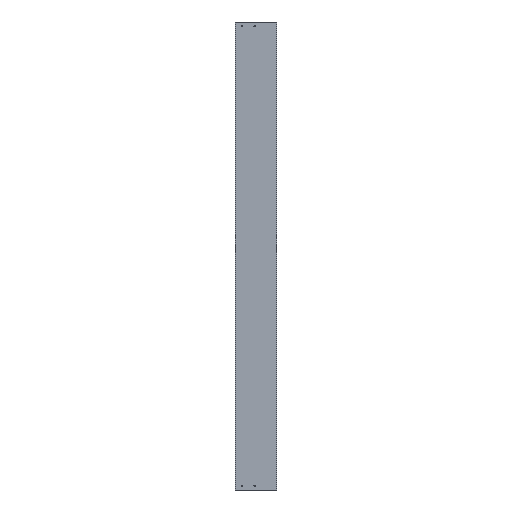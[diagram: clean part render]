
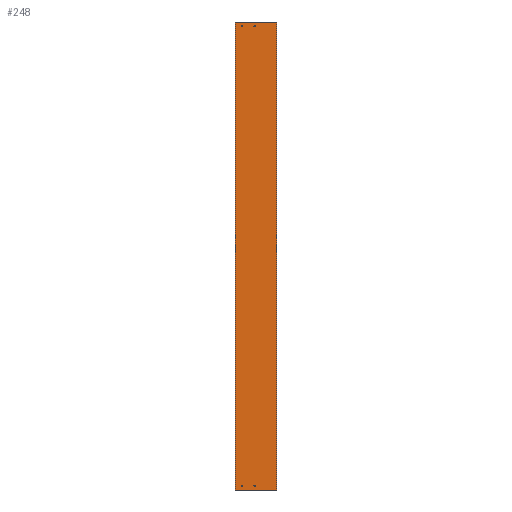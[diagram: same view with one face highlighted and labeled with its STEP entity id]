
A CAD part, left-side view. The second image highlights one B-rep face of the part: STEP entity #248.
In plain terms, the highlighted planar face has unit normal (-1, 0, 0).
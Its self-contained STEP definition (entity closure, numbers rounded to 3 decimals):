
#4 = CARTESIAN_POINT ( 'NONE',  ( 0., 87.5, -1149.5 ) ) ;
#11 = DIRECTION ( 'NONE',  ( 0., -1., 0. ) ) ;
#12 = AXIS2_PLACEMENT_3D ( 'NONE', #119, #367, #95 ) ;
#14 = EDGE_CURVE ( 'NONE', #417, #498, #448, .T. ) ;
#29 = EDGE_CURVE ( 'NONE', #40, #411, #405, .T. ) ;
#30 = DIRECTION ( 'NONE',  ( -1., 0., 0. ) ) ;
#33 = DIRECTION ( 'NONE',  ( 0., -1., 0. ) ) ;
#38 = EDGE_CURVE ( 'NONE', #379, #414, #188, .T. ) ;
#40 = VERTEX_POINT ( 'NONE', #339 ) ;
#42 = EDGE_LOOP ( 'NONE', ( #90, #433 ) ) ;
#47 = CARTESIAN_POINT ( 'NONE',  ( 0., 57., -10.5 ) ) ;
#48 = DIRECTION ( 'NONE',  ( -1., 0., 0. ) ) ;
#50 = DIRECTION ( 'NONE',  ( -1., 0., 0. ) ) ;
#61 = DIRECTION ( 'NONE',  ( 0., -1., 0. ) ) ;
#74 = CARTESIAN_POINT ( 'NONE',  ( 0., 87.5, -1149.5 ) ) ;
#75 = ORIENTED_EDGE ( 'NONE', *, *, #226, .T. ) ;
#84 = DIRECTION ( 'NONE',  ( 0., -1., 0. ) ) ;
#86 = DIRECTION ( 'NONE',  ( -1., 0., 0. ) ) ;
#87 = VERTEX_POINT ( 'NONE', #277 ) ;
#90 = ORIENTED_EDGE ( 'NONE', *, *, #29, .F. ) ;
#95 = DIRECTION ( 'NONE',  ( 0., -1., 0. ) ) ;
#99 = DIRECTION ( 'NONE',  ( 0., -1., 0. ) ) ;
#100 = EDGE_CURVE ( 'NONE', #414, #379, #408, .T. ) ;
#103 = DIRECTION ( 'NONE',  ( -1., 0., 0. ) ) ;
#110 = EDGE_LOOP ( 'NONE', ( #482, #195 ) ) ;
#114 = AXIS2_PLACEMENT_3D ( 'NONE', #165, #128, #61 ) ;
#115 = DIRECTION ( 'NONE',  ( 0., -1., 0. ) ) ;
#119 = CARTESIAN_POINT ( 'NONE',  ( 0., 87.5, -10.5 ) ) ;
#128 = DIRECTION ( 'NONE',  ( -1., 0., 0. ) ) ;
#131 = EDGE_CURVE ( 'NONE', #293, #460, #385, .T. ) ;
#133 = DIRECTION ( 'NONE',  ( 0., -1., 0. ) ) ;
#136 = AXIS2_PLACEMENT_3D ( 'NONE', #232, #30, #115 ) ;
#137 = EDGE_CURVE ( 'NONE', #240, #432, #262, .T. ) ;
#138 = AXIS2_PLACEMENT_3D ( 'NONE', #233, #50, #133 ) ;
#146 = DIRECTION ( 'NONE',  ( 0., -1., 0. ) ) ;
#150 = EDGE_LOOP ( 'NONE', ( #459, #474 ) ) ;
#151 = DIRECTION ( 'NONE',  ( -1., 0., 0. ) ) ;
#156 = EDGE_CURVE ( 'NONE', #410, #293, #375, .T. ) ;
#157 = CARTESIAN_POINT ( 'NONE',  ( 0., 55.5, -10.5 ) ) ;
#163 = FACE_BOUND ( 'NONE', #254, .T. ) ;
#164 = AXIS2_PLACEMENT_3D ( 'NONE', #157, #48, #33 ) ;
#165 = CARTESIAN_POINT ( 'NONE',  ( 0., 103.5, -1160. ) ) ;
#171 = CARTESIAN_POINT ( 'NONE',  ( 0., 104., 0. ) ) ;
#173 = DIRECTION ( 'NONE',  ( -1., 0., 0. ) ) ;
#174 = DIRECTION ( 'NONE',  ( 0., -1., 0. ) ) ;
#188 = CIRCLE ( 'NONE', #204, 1.5 ) ;
#190 = AXIS2_PLACEMENT_3D ( 'NONE', #199, #86, #84 ) ;
#195 = ORIENTED_EDGE ( 'NONE', *, *, #14, .F. ) ;
#199 = CARTESIAN_POINT ( 'NONE',  ( 0., 55.5, -1149.5 ) ) ;
#204 = AXIS2_PLACEMENT_3D ( 'NONE', #442, #151, #146 ) ;
#214 = CARTESIAN_POINT ( 'NONE',  ( 0., 54., -10.5 ) ) ;
#225 = CARTESIAN_POINT ( 'NONE',  ( 0., 103.5, 0. ) ) ;
#226 = EDGE_CURVE ( 'NONE', #410, #87, #360, .T. ) ;
#230 = VECTOR ( 'NONE', #492, 1000. ) ;
#232 = CARTESIAN_POINT ( 'NONE',  ( 0., 55.5, -1149.5 ) ) ;
#233 = CARTESIAN_POINT ( 'NONE',  ( 0., 55.5, -10.5 ) ) ;
#240 = VERTEX_POINT ( 'NONE', #47 ) ;
#241 = CARTESIAN_POINT ( 'NONE',  ( 0., 104., -1160. ) ) ;
#248 = ADVANCED_FACE ( 'NONE', ( #355, #441, #356, #163, #350 ), #511, .T. ) ;
#254 = EDGE_LOOP ( 'NONE', ( #508, #499 ) ) ;
#259 = CARTESIAN_POINT ( 'NONE',  ( 0., 89., -10.5 ) ) ;
#262 = CIRCLE ( 'NONE', #138, 1.5 ) ;
#269 = CARTESIAN_POINT ( 'NONE',  ( 0., 57., -1149.5 ) ) ;
#277 = CARTESIAN_POINT ( 'NONE',  ( 0., 0., -1160. ) ) ;
#286 = AXIS2_PLACEMENT_3D ( 'NONE', #74, #103, #99 ) ;
#288 = CIRCLE ( 'NONE', #190, 1.5 ) ;
#291 = LINE ( 'NONE', #513, #230 ) ;
#293 = VERTEX_POINT ( 'NONE', #354 ) ;
#294 = DIRECTION ( 'NONE',  ( 0., -1., 0. ) ) ;
#297 = CIRCLE ( 'NONE', #164, 1.5 ) ;
#301 = CARTESIAN_POINT ( 'NONE',  ( 0., 103.5, -1160. ) ) ;
#310 = CIRCLE ( 'NONE', #286, 1.5 ) ;
#322 = CARTESIAN_POINT ( 'NONE',  ( 0., 86., -1149.5 ) ) ;
#339 = CARTESIAN_POINT ( 'NONE',  ( 0., 54., -1149.5 ) ) ;
#340 = AXIS2_PLACEMENT_3D ( 'NONE', #4, #173, #11 ) ;
#350 = FACE_OUTER_BOUND ( 'NONE', #390, .T. ) ;
#354 = CARTESIAN_POINT ( 'NONE',  ( 0., 104., 0. ) ) ;
#355 = FACE_BOUND ( 'NONE', #150, .T. ) ;
#356 = FACE_BOUND ( 'NONE', #110, .T. ) ;
#358 = EDGE_CURVE ( 'NONE', #498, #417, #310, .T. ) ;
#359 = VECTOR ( 'NONE', #294, 1000. ) ;
#360 = LINE ( 'NONE', #301, #359 ) ;
#367 = DIRECTION ( 'NONE',  ( -1., 0., 0. ) ) ;
#373 = VECTOR ( 'NONE', #436, 1000. ) ;
#375 = LINE ( 'NONE', #171, #373 ) ;
#379 = VERTEX_POINT ( 'NONE', #496 ) ;
#382 = VECTOR ( 'NONE', #174, 1000. ) ;
#385 = LINE ( 'NONE', #225, #382 ) ;
#390 = EDGE_LOOP ( 'NONE', ( #477, #478, #502, #75 ) ) ;
#405 = CIRCLE ( 'NONE', #136, 1.5 ) ;
#408 = CIRCLE ( 'NONE', #12, 1.5 ) ;
#410 = VERTEX_POINT ( 'NONE', #241 ) ;
#411 = VERTEX_POINT ( 'NONE', #269 ) ;
#414 = VERTEX_POINT ( 'NONE', #259 ) ;
#417 = VERTEX_POINT ( 'NONE', #430 ) ;
#422 = EDGE_CURVE ( 'NONE', #460, #87, #291, .T. ) ;
#423 = CARTESIAN_POINT ( 'NONE',  ( 0., 0., 0. ) ) ;
#429 = EDGE_CURVE ( 'NONE', #432, #240, #297, .T. ) ;
#430 = CARTESIAN_POINT ( 'NONE',  ( 0., 89., -1149.5 ) ) ;
#432 = VERTEX_POINT ( 'NONE', #214 ) ;
#433 = ORIENTED_EDGE ( 'NONE', *, *, #480, .F. ) ;
#436 = DIRECTION ( 'NONE',  ( 0., 0., 1. ) ) ;
#441 = FACE_BOUND ( 'NONE', #42, .T. ) ;
#442 = CARTESIAN_POINT ( 'NONE',  ( 0., 87.5, -10.5 ) ) ;
#448 = CIRCLE ( 'NONE', #340, 1.5 ) ;
#459 = ORIENTED_EDGE ( 'NONE', *, *, #38, .F. ) ;
#460 = VERTEX_POINT ( 'NONE', #423 ) ;
#474 = ORIENTED_EDGE ( 'NONE', *, *, #100, .F. ) ;
#477 = ORIENTED_EDGE ( 'NONE', *, *, #422, .F. ) ;
#478 = ORIENTED_EDGE ( 'NONE', *, *, #131, .F. ) ;
#480 = EDGE_CURVE ( 'NONE', #411, #40, #288, .T. ) ;
#482 = ORIENTED_EDGE ( 'NONE', *, *, #358, .F. ) ;
#492 = DIRECTION ( 'NONE',  ( 0., 0., -1. ) ) ;
#496 = CARTESIAN_POINT ( 'NONE',  ( 0., 86., -10.5 ) ) ;
#498 = VERTEX_POINT ( 'NONE', #322 ) ;
#499 = ORIENTED_EDGE ( 'NONE', *, *, #137, .F. ) ;
#502 = ORIENTED_EDGE ( 'NONE', *, *, #156, .F. ) ;
#508 = ORIENTED_EDGE ( 'NONE', *, *, #429, .F. ) ;
#511 = PLANE ( 'NONE',  #114 ) ;
#513 = CARTESIAN_POINT ( 'NONE',  ( 0., 0., 0. ) ) ;
